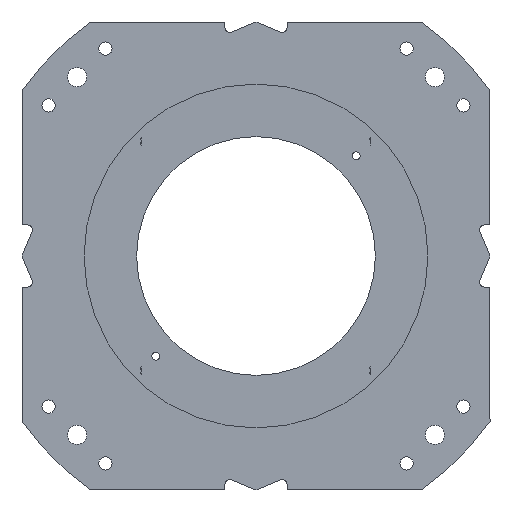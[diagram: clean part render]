
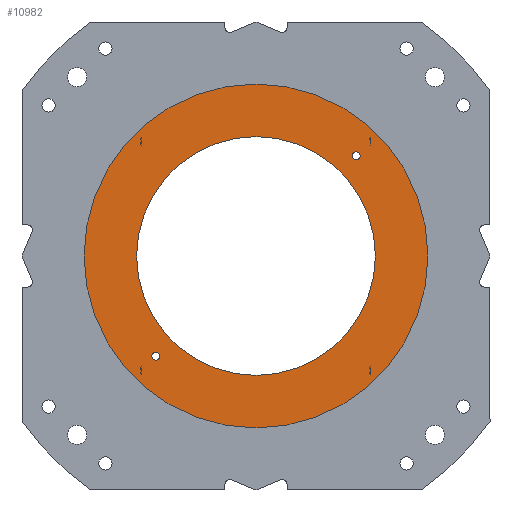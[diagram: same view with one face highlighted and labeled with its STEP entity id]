
A CAD part, front view. The second image highlights one B-rep face of the part: STEP entity #10982.
In plain terms, the highlighted planar face has unit normal (0, -1, 0).
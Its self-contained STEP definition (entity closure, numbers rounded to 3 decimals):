
#289 = DIRECTION ( 'NONE',  ( 0., 1., 0. ) ) ;
#389 = CARTESIAN_POINT ( 'NONE',  ( 0., 863., 180. ) ) ;
#496 = FACE_BOUND ( 'NONE', #10679, .T. ) ;
#612 = EDGE_LOOP ( 'NONE', ( #6803, #2022 ) ) ;
#1248 = FACE_OUTER_BOUND ( 'NONE', #612, .T. ) ;
#1310 = PLANE ( 'NONE',  #2409 ) ;
#1323 = DIRECTION ( 'NONE',  ( 0., -1., 0. ) ) ;
#1365 = CARTESIAN_POINT ( 'NONE',  ( -105., 863., -101. ) ) ;
#1429 = ORIENTED_EDGE ( 'NONE', *, *, #10061, .F. ) ;
#1620 = VERTEX_POINT ( 'NONE', #9074 ) ;
#1704 = DIRECTION ( 'NONE',  ( 0., 0., -1. ) ) ;
#2022 = ORIENTED_EDGE ( 'NONE', *, *, #6536, .F. ) ;
#2093 = EDGE_CURVE ( 'NONE', #3725, #5401, #3113, .T. ) ;
#2127 = CARTESIAN_POINT ( 'NONE',  ( 105., 863., 105. ) ) ;
#2134 = ORIENTED_EDGE ( 'NONE', *, *, #2093, .F. ) ;
#2385 = CIRCLE ( 'NONE', #4216, 4. ) ;
#2409 = AXIS2_PLACEMENT_3D ( 'NONE', #3810, #9169, #3997 ) ;
#2469 = DIRECTION ( 'NONE',  ( 0., 0., -1. ) ) ;
#2732 = CARTESIAN_POINT ( 'NONE',  ( -105., 863., -109. ) ) ;
#3113 = CIRCLE ( 'NONE', #4041, 4. ) ;
#3144 = DIRECTION ( 'NONE',  ( 0., -1., 0. ) ) ;
#3522 = AXIS2_PLACEMENT_3D ( 'NONE', #2127, #1323, #3952 ) ;
#3725 = VERTEX_POINT ( 'NONE', #1365 ) ;
#3810 = CARTESIAN_POINT ( 'NONE',  ( 0., 863., 0. ) ) ;
#3952 = DIRECTION ( 'NONE',  ( 0., 0., -1. ) ) ;
#3997 = DIRECTION ( 'NONE',  ( 0., 0., -1. ) ) ;
#4041 = AXIS2_PLACEMENT_3D ( 'NONE', #11085, #8191, #7365 ) ;
#4142 = EDGE_CURVE ( 'NONE', #5609, #9621, #8527, .T. ) ;
#4196 = EDGE_CURVE ( 'NONE', #4527, #1620, #10932, .T. ) ;
#4216 = AXIS2_PLACEMENT_3D ( 'NONE', #8751, #9619, #1704 ) ;
#4527 = VERTEX_POINT ( 'NONE', #9572 ) ;
#4656 = AXIS2_PLACEMENT_3D ( 'NONE', #4729, #289, #10184 ) ;
#4729 = CARTESIAN_POINT ( 'NONE',  ( 0., 863., 0. ) ) ;
#5028 = CIRCLE ( 'NONE', #4656, 180. ) ;
#5401 = VERTEX_POINT ( 'NONE', #2732 ) ;
#5514 = VERTEX_POINT ( 'NONE', #389 ) ;
#5609 = VERTEX_POINT ( 'NONE', #9639 ) ;
#5702 = CIRCLE ( 'NONE', #7551, 4. ) ;
#5983 = ORIENTED_EDGE ( 'NONE', *, *, #6292, .F. ) ;
#6228 = EDGE_LOOP ( 'NONE', ( #5983, #7868 ) ) ;
#6262 = CARTESIAN_POINT ( 'NONE',  ( 105., 863., 101. ) ) ;
#6292 = EDGE_CURVE ( 'NONE', #1620, #4527, #9283, .T. ) ;
#6318 = ORIENTED_EDGE ( 'NONE', *, *, #4142, .F. ) ;
#6536 = EDGE_CURVE ( 'NONE', #11238, #5514, #11125, .T. ) ;
#6678 = FACE_BOUND ( 'NONE', #6228, .T. ) ;
#6803 = ORIENTED_EDGE ( 'NONE', *, *, #6990, .F. ) ;
#6928 = EDGE_LOOP ( 'NONE', ( #6318, #9163 ) ) ;
#6937 = CARTESIAN_POINT ( 'NONE',  ( 0., 863., -180. ) ) ;
#6990 = EDGE_CURVE ( 'NONE', #5514, #11238, #5028, .T. ) ;
#7365 = DIRECTION ( 'NONE',  ( 0., 0., -1. ) ) ;
#7496 = DIRECTION ( 'NONE',  ( 0., 0., -1. ) ) ;
#7551 = AXIS2_PLACEMENT_3D ( 'NONE', #7616, #3144, #7496 ) ;
#7616 = CARTESIAN_POINT ( 'NONE',  ( -105., 863., -105. ) ) ;
#7868 = ORIENTED_EDGE ( 'NONE', *, *, #4196, .F. ) ;
#8068 = FACE_BOUND ( 'NONE', #6928, .T. ) ;
#8191 = DIRECTION ( 'NONE',  ( 0., -1., 0. ) ) ;
#8278 = DIRECTION ( 'NONE',  ( 0., -1., 0. ) ) ;
#8527 = CIRCLE ( 'NONE', #3522, 4. ) ;
#8751 = CARTESIAN_POINT ( 'NONE',  ( 105., 863., 105. ) ) ;
#9074 = CARTESIAN_POINT ( 'NONE',  ( 0., 863., 125. ) ) ;
#9136 = CARTESIAN_POINT ( 'NONE',  ( 0., 863., 0. ) ) ;
#9163 = ORIENTED_EDGE ( 'NONE', *, *, #9745, .F. ) ;
#9169 = DIRECTION ( 'NONE',  ( 0., -1., 0. ) ) ;
#9255 = DIRECTION ( 'NONE',  ( 0., 0., 1. ) ) ;
#9283 = CIRCLE ( 'NONE', #9464, 125. ) ;
#9464 = AXIS2_PLACEMENT_3D ( 'NONE', #10075, #8278, #11059 ) ;
#9572 = CARTESIAN_POINT ( 'NONE',  ( 0., 863., -125. ) ) ;
#9619 = DIRECTION ( 'NONE',  ( 0., -1., 0. ) ) ;
#9621 = VERTEX_POINT ( 'NONE', #6262 ) ;
#9639 = CARTESIAN_POINT ( 'NONE',  ( 105., 863., 109. ) ) ;
#9745 = EDGE_CURVE ( 'NONE', #9621, #5609, #2385, .T. ) ;
#10061 = EDGE_CURVE ( 'NONE', #5401, #3725, #5702, .T. ) ;
#10075 = CARTESIAN_POINT ( 'NONE',  ( 0., 863., 0. ) ) ;
#10184 = DIRECTION ( 'NONE',  ( 0., 0., 1. ) ) ;
#10406 = DIRECTION ( 'NONE',  ( 0., -1., 0. ) ) ;
#10576 = AXIS2_PLACEMENT_3D ( 'NONE', #11263, #10406, #2469 ) ;
#10679 = EDGE_LOOP ( 'NONE', ( #2134, #1429 ) ) ;
#10930 = AXIS2_PLACEMENT_3D ( 'NONE', #9136, #10990, #9255 ) ;
#10932 = CIRCLE ( 'NONE', #10576, 125. ) ;
#10982 = ADVANCED_FACE ( 'NONE', ( #8068, #496, #6678, #1248 ), #1310, .T. ) ;
#10990 = DIRECTION ( 'NONE',  ( 0., 1., 0. ) ) ;
#11059 = DIRECTION ( 'NONE',  ( 0., 0., -1. ) ) ;
#11085 = CARTESIAN_POINT ( 'NONE',  ( -105., 863., -105. ) ) ;
#11125 = CIRCLE ( 'NONE', #10930, 180. ) ;
#11238 = VERTEX_POINT ( 'NONE', #6937 ) ;
#11263 = CARTESIAN_POINT ( 'NONE',  ( 0., 863., 0. ) ) ;
